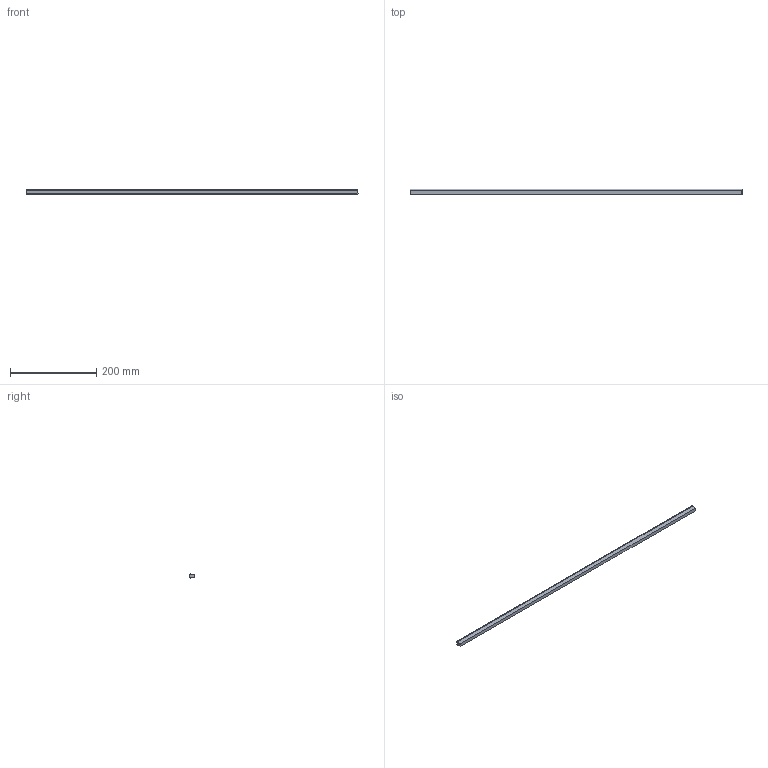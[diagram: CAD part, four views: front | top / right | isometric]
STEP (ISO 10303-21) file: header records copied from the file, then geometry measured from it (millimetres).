
FILE_DESCRIPTION(/* description */ (''),/* implementation_level */ '2;1');
FILE_NAME(/* name */ 'Pos0-Antislip-Rubber-0st_J',/* time_stamp */ '2024-08-06T13:37:43+02:00',/* author */ (''),/* organization */ (''),/* preprocessor_version */ 'ST-DEVELOPER v16.5',/* originating_system */ 'HiCAD 2024 2901.2 Build 361',/* authorisation */ '');
FILE_SCHEMA (('AUTOMOTIVE_DESIGN { 1 0 10303 214 1 1 1 1 }'));
Length unit declared in the file: millimetre
Products named in the file (1): Pos0-Antislip-Rubber-0st
Bounding box: 771.14 x 12 x 12 mm (x, y, z)
Volume: 77114.1 mm3; surface area: 35407.9 mm2
Topology: 1 solids, 1 shells, 10 faces, 24 edges, 16 vertices
Faces by surface type: plane 10
Entity records: 546 total; most frequent: CARTESIAN_POINT 50, PRESENTATION_STYLE_ASSIGNMENT 49, COLOUR_RGB 49, DRAUGHTING_PRE_DEFINED_CURVE_FONT 48, CURVE_STYLE 48, OVER_RIDING_STYLED_ITEM 48, ORIENTED_EDGE 48, DIRECTION 44
